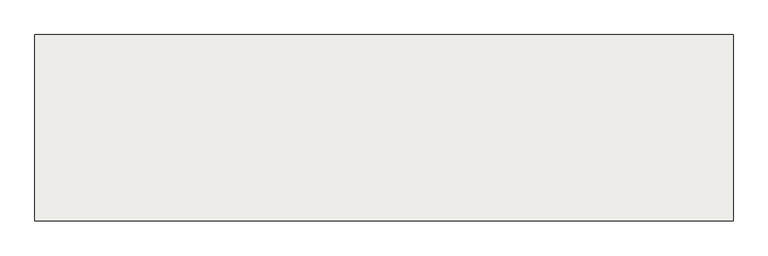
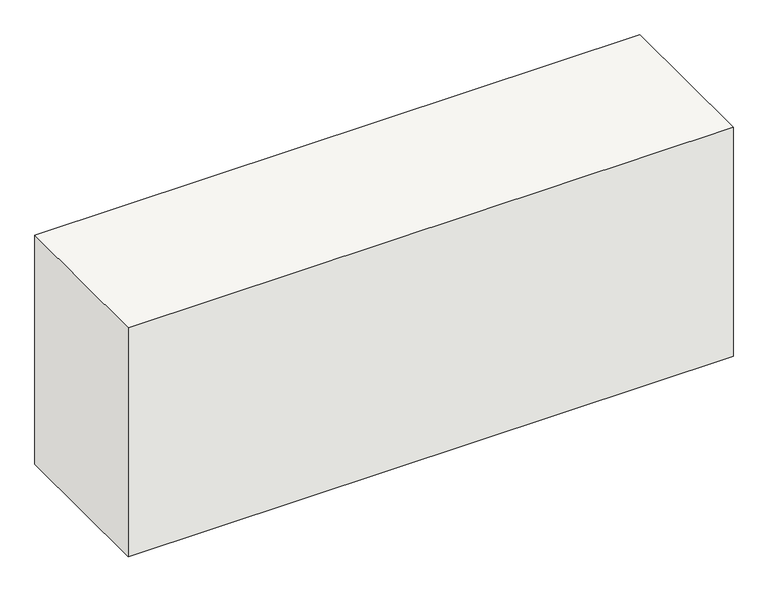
"""IFC4 building model written with IfcOpenShell, lengths in millimetres: slab geometry, Wall Foundation:16_SFO_prefab beton_C35-45_400x600:317426 : Wall Foundation:16_SFO_prefab beton_C35-45_400x600:317426."""

import ifcopenshell
import ifcopenshell.guid

model = None  # the IFC model being written
_history = None  # IfcOwnerHistory: only IFC2X3 demands one
_inside = {}  # id of a spatial element -> (the spatial element, [elements in it])
_under = {}  # id of a project, library or spatial element -> (it, [spatial elements below it])
_declared = {}  # id of a project -> (the project, [libraries it declares])
_typed = {}  # id of a type object -> (the type object, [elements of that type])
_made_of = {}  # id of a material, layer set ... -> (it, [elements and type objects made of it])


def new_model(schema):
    """Start an empty IFC model of exactly this schema.

    Asked for "IFC4X3", IfcOpenShell would pick the latest addendum, in which some entities
    have other attributes; the version numbers below select the first issue.
    IFC2X3 requires an IfcOwnerHistory on every rooted entity: one is made here for all.
    """
    global model, _history
    if schema == "IFC4X3":
        model = ifcopenshell.file(schema_version=(4, 3, 0, 0))
    else:
        model = ifcopenshell.file(schema=schema)
    _inside.clear()
    _under.clear()
    _declared.clear()
    _typed.clear()
    _made_of.clear()
    _history = None
    if model.schema == "IFC2X3":
        org = make("IfcOrganization", Name="unknown")
        user = make(
            "IfcPersonAndOrganization",
            ThePerson=make("IfcPerson", FamilyName="unknown"),
            TheOrganization=org,
        )
        app = make(
            "IfcApplication",
            ApplicationDeveloper=org,
            Version="unknown",
            ApplicationFullName="unknown",
            ApplicationIdentifier="unknown",
        )
        _history = make(
            "IfcOwnerHistory",
            OwningUser=user,
            OwningApplication=app,
            ChangeAction="ADDED",
            CreationDate=0,
        )
    return model


def make(cls, **values):
    """One entity of the class cls with the attributes given. An attribute that is None is left unset."""
    return model.create_entity(
        cls, **{name: value for name, value in values.items() if value is not None}
    )


def rooted(cls, **values):
    """An entity with a GlobalId (a new one), such as an element, a storey or a relation."""
    return make(cls, GlobalId=ifcopenshell.guid.new(), OwnerHistory=_history, **values)


def si_unit(unit_type, name, prefix=None):
    """IfcSIUnit, for example si_unit("LENGTHUNIT", "METRE", prefix="MILLI")."""
    return make("IfcSIUnit", UnitType=unit_type, Prefix=prefix, Name=name)


def assignment(units):
    """IfcUnitAssignment: the units of a project."""
    return None if units is None else make("IfcUnitAssignment", Units=units)


def point(xyz):
    """IfcCartesianPoint."""
    return None if xyz is None else make("IfcCartesianPoint", Coordinates=xyz)


def direction(xyz):
    """IfcDirection."""
    return None if xyz is None else make("IfcDirection", DirectionRatios=xyz)


def frame(location, z_axis=None, x_axis=None):
    """IfcAxis2Placement3D, a coordinate frame: its origin and axes. An axis left out is left unset."""
    return make(
        "IfcAxis2Placement3D",
        Location=point(location),
        Axis=direction(z_axis),
        RefDirection=direction(x_axis),
    )


def origin():
    """The frame at (0, 0, 0) with its axes left unset."""
    return frame((0.0, 0.0, 0.0))


def place(relative_to, where):
    """IfcLocalPlacement: puts the frame where relative to a parent placement (None: the world)."""
    return make(
        "IfcLocalPlacement", PlacementRelTo=relative_to, RelativePlacement=where
    )


def context(
    kind, dimensions, precision=None, world=None, true_north=None, identifier=None
):
    """IfcGeometricRepresentationContext, for example the 3D "Model" context."""
    return make(
        "IfcGeometricRepresentationContext",
        ContextIdentifier=identifier,
        ContextType=kind,
        CoordinateSpaceDimension=dimensions,
        Precision=precision,
        WorldCoordinateSystem=world,
        TrueNorth=true_north,
    )


def project(units=None, contexts=None):
    """IfcProject with its units and contexts."""
    return rooted(
        "IfcProject",
        Name="project",
        RepresentationContexts=contexts,
        UnitsInContext=assignment(units),
    )


def spatial(cls, under=None, at=None, **own):
    """A site, building, storey or space (cls), placed at a placement, below another one or the project."""
    s = rooted(cls, ObjectPlacement=at, **own)
    if under is not None:
        _under.setdefault(under.id(), (under, []))[1].append(s)
    return s


def polyline(points):
    """IfcPolyline through the points."""
    return make("IfcPolyline", Points=[point(p) for p in points])


def outline(outer, holes=None, kind="AREA"):
    """IfcArbitraryClosedProfileDef: a profile drawn as a closed curve; with holes, ...WithVoids."""
    if holes is None:
        return make("IfcArbitraryClosedProfileDef", ProfileType=kind, OuterCurve=outer)
    return make(
        "IfcArbitraryProfileDefWithVoids",
        ProfileType=kind,
        OuterCurve=outer,
        InnerCurves=holes,
    )


def extrude(swept, where, along, depth):
    """IfcExtrudedAreaSolid: the profile swept, set in the frame where, extruded along a direction by depth."""
    return make(
        "IfcExtrudedAreaSolid",
        SweptArea=swept,
        Position=where,
        ExtrudedDirection=direction(along),
        Depth=depth,
    )


def shape(context_of_items, identifier, shape_type, items):
    """IfcShapeRepresentation: the items that make up one representation, for example the "Body"."""
    return make(
        "IfcShapeRepresentation",
        ContextOfItems=context_of_items,
        RepresentationIdentifier=identifier,
        RepresentationType=shape_type,
        Items=items,
    )


def source(mapping_origin, context_of_items, identifier, shape_type, items):
    """IfcRepresentationMap: a shape defined once, which mapped items show again and again."""
    return make(
        "IfcRepresentationMap",
        MappingOrigin=mapping_origin,
        MappedRepresentation=shape(context_of_items, identifier, shape_type, items),
    )


def transform(
    local_origin,
    x_axis=None,
    y_axis=None,
    z_axis=None,
    scale=None,
    scale2=None,
    scale3=None,
    uniform=True,
):
    """IfcCartesianTransformationOperator3D, or its non-uniform kind. x_axis, y_axis, z_axis: its Axis1, 2, 3."""
    if uniform:
        return make(
            "IfcCartesianTransformationOperator3D",
            Axis1=direction(x_axis),
            Axis2=direction(y_axis),
            LocalOrigin=point(local_origin),
            Scale=scale,
            Axis3=direction(z_axis),
        )
    return make(
        "IfcCartesianTransformationOperator3DnonUniform",
        Axis1=direction(x_axis),
        Axis2=direction(y_axis),
        LocalOrigin=point(local_origin),
        Scale=scale,
        Axis3=direction(z_axis),
        Scale2=scale2,
        Scale3=scale3,
    )


def mapped(mapping_source, mapping_target):
    """IfcMappedItem: shows the shape of a source again, moved by a transform."""
    return make(
        "IfcMappedItem", MappingSource=mapping_source, MappingTarget=mapping_target
    )


def made_of(thing, what):
    """Note that an element or type object is made of a material, layer set ...; save() writes the relation."""
    if what is not None:
        _made_of.setdefault(what.id(), (what, []))[1].append(thing)
    return thing


def element(
    cls,
    number,
    at=None,
    inside=None,
    cuts=None,
    type_object=None,
    material=None,
    context=None,
    identifier="Body",
    shape_type=None,
    held_by="IfcProductDefinitionShape",
    body=None,
    shapes=None,
    **own,
):
    """One element of the class cls, such as IfcWall. Its Tag is "e" and its number.

    at: its placement. inside: the storey or other place that contains it. cuts: it is an
    opening in that element (IfcRelVoidsElement). A single representation is given by context,
    identifier, shape_type and body (its items); several are given by shapes. held_by: the class
    of the entity that holds the representations. save() writes the other relations.
    """
    e = rooted(cls, Tag="e%d" % number, ObjectPlacement=at, **own)
    if body is not None:
        shapes = [shape(context, identifier, shape_type, body)]
    if shapes is not None:
        e.Representation = make(held_by, Representations=shapes)
    if inside is not None:
        _inside.setdefault(inside.id(), (inside, []))[1].append(e)
    if cuts is not None:
        rooted(
            "IfcRelVoidsElement", RelatingBuildingElement=cuts, RelatedOpeningElement=e
        )
    if type_object is not None:
        _typed.setdefault(type_object.id(), (type_object, []))[1].append(e)
    return made_of(e, material)


def aggregate(whole, parts):
    """IfcRelAggregates: a whole, such as a stair, and the parts it consists of."""
    return rooted("IfcRelAggregates", RelatingObject=whole, RelatedObjects=parts)


def save(model, path):
    """Write the relations noted so far, then the file.

    IfcRelAggregates (storeys below a building ...), IfcRelContainedInSpatialStructure (elements
    in a storey), IfcRelDefinesByType, IfcRelAssociatesMaterial and IfcRelDeclares: one each for
    every whole, place, type object, material and project.
    """
    for whole, parts in _under.values():
        aggregate(whole, parts)
    for where, things in _inside.values():
        rooted(
            "IfcRelContainedInSpatialStructure",
            RelatedElements=things,
            RelatingStructure=where,
        )
    for kind, things in _typed.values():
        rooted("IfcRelDefinesByType", RelatedObjects=things, RelatingType=kind)
    for what, things in _made_of.values():
        rooted("IfcRelAssociatesMaterial", RelatedObjects=things, RelatingMaterial=what)
    for by, libraries in _declared.values():
        rooted("IfcRelDeclares", RelatingContext=by, RelatedDefinitions=libraries)
    model.write(path)


def slab_69df2931(model_context):
    return source(origin(), model_context, "Body", "SweptSolid", [
        extrude(outline(polyline([(28189.8687149, -9448.9380074), (26689.8687149, -9448.9380074), (26689.8687149, -9048.9380074), (28189.8687149, -9048.9380074), (28189.8687149, -9448.9380074)])), frame((0.0, 0.0, -600.0), z_axis=(0.0, 0.0, 1.0), x_axis=(1.0, 0.0, 0.0)), (0.0, 0.0, 1.0), 600.0),
    ])


if __name__ == "__main__":
    model = new_model("IFC4")
    model_context = context("Model", 3, world=origin())
    ifc_project = project(units=[si_unit("LENGTHUNIT", "METRE", prefix="MILLI")], contexts=[model_context])
    site = spatial("IfcSite", under=ifc_project)
    building = spatial("IfcBuilding", under=site)
    placement = place(None, origin())
    slab_shape = slab_69df2931(model_context)
    element("IfcSlab", 1, ObjectType="Wall Foundation:16_SFO_prefab beton_C35-45_400x600:317426 : Wall Foundation:16_SFO_prefab beton_C35-45_400x600:317426", at=placement, inside=building, context=model_context, shape_type="MappedRepresentation", body=[
        mapped(slab_shape, transform((0.0, 0.0, 0.0), x_axis=(1.0, 0.0, 0.0), y_axis=(0.0, 1.0, 0.0), z_axis=(0.0, 0.0, 1.0))),
    ])
    save(model, "model.ifc")
